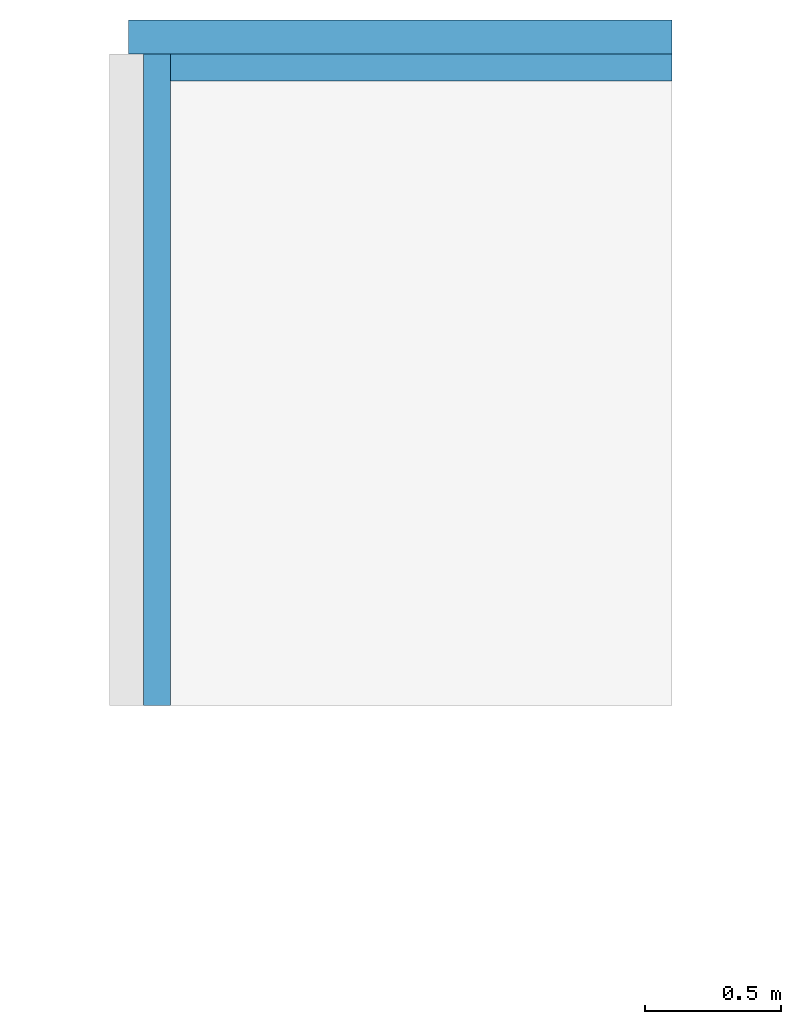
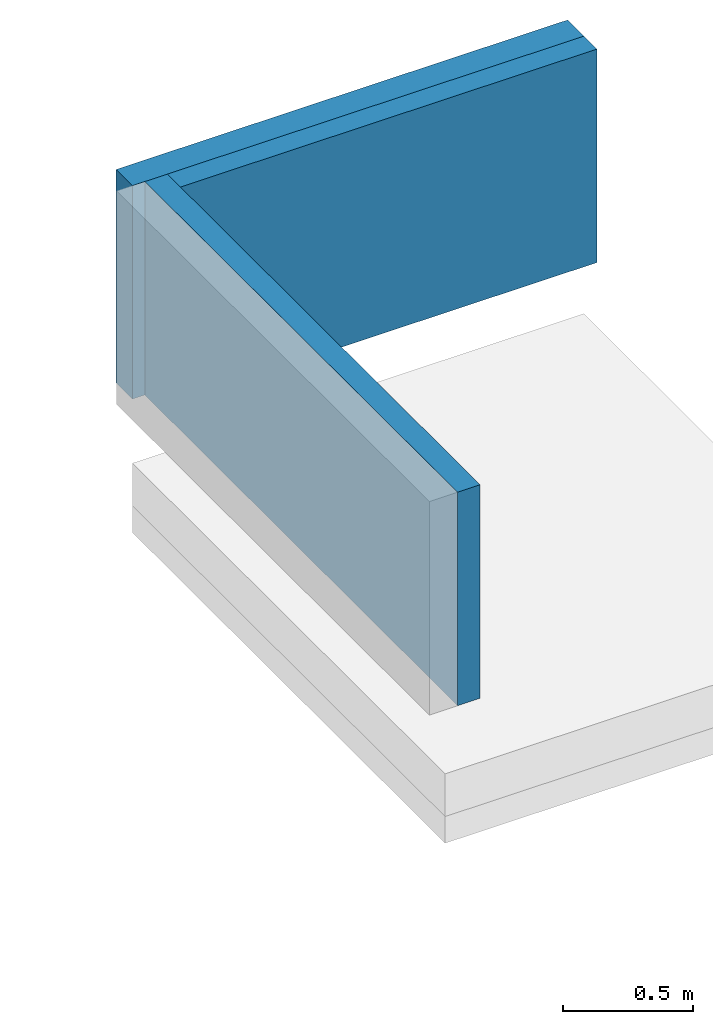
# One storey, part 2 of 2: 3 walls.
"""IFC2X3 building model written with IfcOpenShell, lengths in millimetres."""

from ifc_helpers import new_model, entity, si_unit, converted_unit, derived_unit, direction, frame, frame_2d, origin, place, context, subcontext, project, spatial, rectangle, extrude, material, layer, layer_set, layer_usage, type_object, element, save


model = new_model("IFC2X3")

# Units and contexts
model_context = context("Model", 3, precision=0.01, world=origin(), true_north=direction((6.12303176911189e-17, 1.0)))
context_of_model = context(None, 3, precision=0.01, world=origin(), true_north=direction((6.12303176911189e-17, 1.0)))
body_context = subcontext(model_context, "Body", "Model", "MODEL_VIEW")
ifc_project = project(units=[si_unit("LENGTHUNIT", "METRE", prefix="MILLI"), si_unit("AREAUNIT", "SQUARE_METRE"), si_unit("VOLUMEUNIT", "CUBIC_METRE"), converted_unit("PLANEANGLEUNIT", "DEGREE", entity("IfcRatioMeasure", 0.0174532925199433), si_unit("PLANEANGLEUNIT", "RADIAN"), dimensions=[0, 0, 0, 0, 0, 0, 0]), si_unit("MASSUNIT", "GRAM", prefix="KILO"), derived_unit("MASSDENSITYUNIT", [(si_unit("MASSUNIT", "GRAM", prefix="KILO"), 1), (si_unit("LENGTHUNIT", "METRE"), -3)]), derived_unit("MOMENTOFINERTIAUNIT", [(si_unit("LENGTHUNIT", "METRE"), 4)]), si_unit("TIMEUNIT", "SECOND"), si_unit("FREQUENCYUNIT", "HERTZ"), si_unit("THERMODYNAMICTEMPERATUREUNIT", "DEGREE_CELSIUS"), derived_unit("THERMALTRANSMITTANCEUNIT", [(si_unit("MASSUNIT", "GRAM", prefix="KILO"), 1), (si_unit("THERMODYNAMICTEMPERATUREUNIT", "KELVIN"), -1), (si_unit("TIMEUNIT", "SECOND"), -3)]), derived_unit("VOLUMETRICFLOWRATEUNIT", [(si_unit("LENGTHUNIT", "METRE"), 3), (si_unit("TIMEUNIT", "SECOND"), -1)]), si_unit("ELECTRICCURRENTUNIT", "AMPERE"), si_unit("ELECTRICVOLTAGEUNIT", "VOLT"), si_unit("POWERUNIT", "WATT"), si_unit("FORCEUNIT", "NEWTON", prefix="KILO"), si_unit("ILLUMINANCEUNIT", "LUX"), si_unit("LUMINOUSFLUXUNIT", "LUMEN"), si_unit("LUMINOUSINTENSITYUNIT", "CANDELA"), derived_unit("USERDEFINED", [(si_unit("MASSUNIT", "GRAM", prefix="KILO"), -1), (si_unit("LENGTHUNIT", "METRE"), -2), (si_unit("TIMEUNIT", "SECOND"), 3), (si_unit("LUMINOUSFLUXUNIT", "LUMEN"), 1)]), derived_unit("LINEARVELOCITYUNIT", [(si_unit("LENGTHUNIT", "METRE"), 1), (si_unit("TIMEUNIT", "SECOND"), -1)]), si_unit("PRESSUREUNIT", "PASCAL"), derived_unit("USERDEFINED", [(si_unit("LENGTHUNIT", "METRE"), -2), (si_unit("MASSUNIT", "GRAM", prefix="KILO"), 1), (si_unit("TIMEUNIT", "SECOND"), -2)]), derived_unit("LINEARFORCEUNIT", [(si_unit("MASSUNIT", "GRAM", prefix="KILO"), 1), (si_unit("LENGTHUNIT", "METRE"), 1), (si_unit("TIMEUNIT", "SECOND"), -2), (si_unit("LENGTHUNIT", "METRE"), -1)]), derived_unit("PLANARFORCEUNIT", [(si_unit("MASSUNIT", "GRAM", prefix="KILO"), 1), (si_unit("LENGTHUNIT", "METRE"), 1), (si_unit("TIMEUNIT", "SECOND"), -2), (si_unit("LENGTHUNIT", "METRE"), -2)])], contexts=[model_context, context_of_model])

# Site, building, storey
site_placement = place(None, origin())
site = spatial("IfcSite", under=ifc_project, at=site_placement, Name="Default", CompositionType="ELEMENT")
building_placement = place(site_placement, origin())
building = spatial("IfcBuilding", under=site, at=building_placement, CompositionType="ELEMENT")
storey_placement = place(building_placement, origin())
storey = spatial("IfcBuildingStorey", under=building, at=storey_placement, Name="00 begane grond", CompositionType="ELEMENT", Elevation=-2.77069864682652e-11)

# Walls
ifc_material_1 = material(Name="Heraklith® I Tektalan A2 - Steenwol")
ifc_layer_1 = layer(ifc_material_1, 115.0)
ifc_material_2 = material(Name="Heraklith® I Tektalan A2 - Houtwollaag - 1000x600mm")
ifc_layer_2 = layer(ifc_material_2, 10.0)
ifc_layer_set_1 = layer_set([ifc_layer_1, ifc_layer_2], Name="Basic Wall:NLRS_41_WA_Heraklith Tektalan A2 SmartTec 125x1000x600mm")
ifc_layer_usage_1 = layer_usage(ifc_layer_set_1, "AXIS2", "POSITIVE", -62.5)
wall_type_1 = type_object("IfcWallType", Name="Basic Wall:NLRS_41_WA_Heraklith Tektalan A2 SmartTec 125x1000x600mm", PredefinedType="STANDARD", material=ifc_layer_set_1)
wall_1_placement = place(storey_placement, frame((16970.5627484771, 19433.0627484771, 0.0)))
element("IfcWallStandardCase", 1, at=wall_1_placement, inside=storey, type_object=wall_type_1, material=ifc_layer_usage_1, Name="Basic Wall:NLRS_41_WA_Heraklith Tektalan A2 SmartTec 125x1000x600mm", ObjectType="Basic Wall:NLRS_41_WA_Heraklith Tektalan A2 SmartTec 125x1000x600mm", context=body_context, shape_type="SweptSolid", body=[
    extrude(rectangle(XDim=1999.99999999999, YDim=125.000000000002, at=frame_2d((999.999999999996, 6.75015598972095e-13), x_axis=(-1.0, 0.0))), origin(), (0.0, 0.0, 1.0), 1000.00000000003),
])
ifc_material_3 = material(Name="Concrete, Precast Panels")
ifc_layer_3 = layer(ifc_material_3, 100.0)
ifc_layer_set_2 = layer_set([ifc_layer_3], Name="Basic Wall:Generic_100mm")
ifc_layer_usage_2 = layer_usage(ifc_layer_set_2, "AXIS2", "NEGATIVE", 50.0)
wall_type_2 = type_object("IfcWallType", Name="Basic Wall:Generic_100mm", PredefinedType="STANDARD", material=ifc_layer_set_2)
wall_2_placement = place(storey_placement, frame((17075.5627484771, 16970.5627484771, 0.0), z_axis=(0.0, 0.0, 1.0), x_axis=(0.0, 1.0, 0.0)))
element("IfcWallStandardCase", 2, at=wall_2_placement, inside=storey, type_object=wall_type_2, material=ifc_layer_usage_2, Name="Basic Wall:Generic_100mm", ObjectType="Basic Wall:Generic_100mm", context=body_context, shape_type="SweptSolid", body=[
    extrude(rectangle(XDim=2400.0, YDim=99.9999999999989, at=frame_2d((1200.0, 8.88178419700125e-14), x_axis=(-1.0, 0.0))), origin(), (0.0, 0.0, 1.0), 1000.00000000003),
])
ifc_layer_usage_3 = layer_usage(ifc_layer_set_2, "AXIS2", "POSITIVE", -50.0)
wall_3_placement = place(storey_placement, frame((18970.5627484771, 19320.5627484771, 0.0), z_axis=(0.0, 0.0, 1.0), x_axis=(-1.0, 0.0, 0.0)))
element("IfcWallStandardCase", 3, at=wall_3_placement, inside=storey, type_object=wall_type_2, material=ifc_layer_usage_3, Name="Basic Wall:Generic_100mm", ObjectType="Basic Wall:Generic_100mm", context=body_context, shape_type="SweptSolid", body=[
    extrude(rectangle(XDim=1845.0, YDim=99.9999999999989, at=frame_2d((922.499999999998, 0.0), x_axis=(-1.0, 0.0))), origin(), (0.0, 0.0, 1.0), 1000.00000000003),
])

save(model, "model.ifc")
